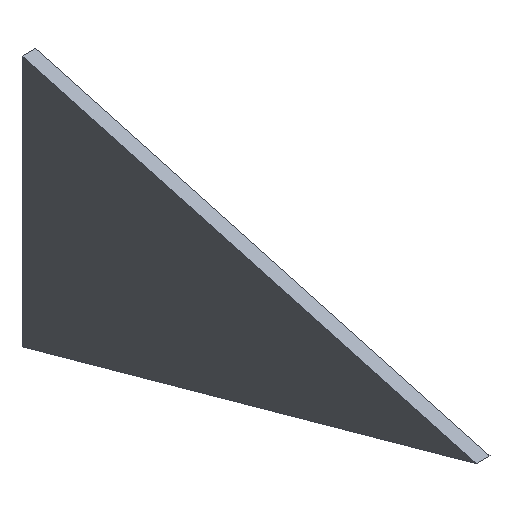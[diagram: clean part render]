
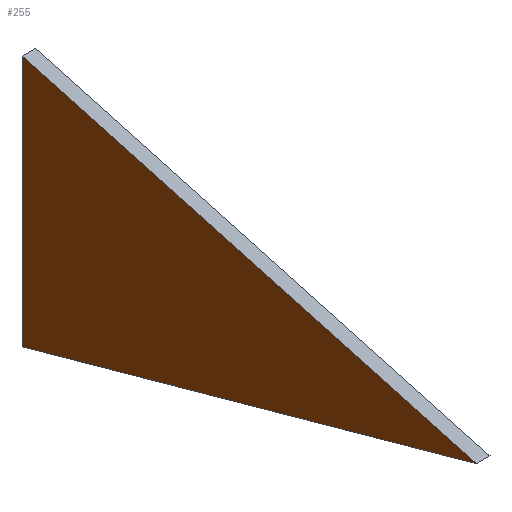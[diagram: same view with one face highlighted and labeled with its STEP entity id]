
A CAD part, isometric view. The second image highlights one B-rep face of the part: STEP entity #255.
In plain terms, the highlighted planar face has unit normal (-1, 0, 0).
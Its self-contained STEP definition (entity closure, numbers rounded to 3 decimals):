
#22 = VERTEX_POINT('',#23);
#23 = CARTESIAN_POINT('',(-1900.,1907.,2980.));
#32 = PLANE('',#33);
#33 = AXIS2_PLACEMENT_3D('',#34,#35,#36);
#34 = CARTESIAN_POINT('',(-1900.,1907.,2980.));
#35 = DIRECTION('',(0.,-1.,0.));
#36 = DIRECTION('',(0.,0.,1.));
#44 = PLANE('',#45);
#45 = AXIS2_PLACEMENT_3D('',#46,#47,#48);
#46 = CARTESIAN_POINT('',(-1900.,1510.,3090.));
#47 = DIRECTION('',(-0.,0.267,0.964));
#48 = DIRECTION('',(0.,0.964,-0.267));
#85 = VERTEX_POINT('',#86);
#86 = CARTESIAN_POINT('',(-1900.,1907.,3200.));
#100 = PLANE('',#101);
#101 = AXIS2_PLACEMENT_3D('',#102,#103,#104);
#102 = CARTESIAN_POINT('',(-1900.,1907.,3200.));
#103 = DIRECTION('',(0.,0.267,-0.964));
#104 = DIRECTION('',(0.,-0.964,-0.267));
#112 = EDGE_CURVE('',#22,#85,#113,.T.);
#113 = SURFACE_CURVE('',#114,(#118,#125),.PCURVE_S1.);
#114 = LINE('',#115,#116);
#115 = CARTESIAN_POINT('',(-1900.,1907.,2980.));
#116 = VECTOR('',#117,1.);
#117 = DIRECTION('',(0.,0.,1.));
#118 = PCURVE('',#32,#119);
#119 = DEFINITIONAL_REPRESENTATION('',(#120),#124);
#120 = LINE('',#121,#122);
#121 = CARTESIAN_POINT('',(0.,0.));
#122 = VECTOR('',#123,1.);
#123 = DIRECTION('',(1.,0.));
#124 = ( GEOMETRIC_REPRESENTATION_CONTEXT(2) 
PARAMETRIC_REPRESENTATION_CONTEXT() REPRESENTATION_CONTEXT('2D SPACE',''
  ) );
#125 = PCURVE('',#126,#131);
#126 = PLANE('',#127);
#127 = AXIS2_PLACEMENT_3D('',#128,#129,#130);
#128 = CARTESIAN_POINT('',(-1900.,1750.333,3090.));
#129 = DIRECTION('',(1.,0.,0.));
#130 = DIRECTION('',(-0.,0.,1.));
#131 = DEFINITIONAL_REPRESENTATION('',(#132),#136);
#132 = LINE('',#133,#134);
#133 = CARTESIAN_POINT('',(-110.,-156.667));
#134 = VECTOR('',#135,1.);
#135 = DIRECTION('',(1.,0.));
#136 = ( GEOMETRIC_REPRESENTATION_CONTEXT(2) 
PARAMETRIC_REPRESENTATION_CONTEXT() REPRESENTATION_CONTEXT('2D SPACE',''
  ) );
#166 = VERTEX_POINT('',#167);
#167 = CARTESIAN_POINT('',(-1900.,1510.,3090.));
#188 = EDGE_CURVE('',#85,#166,#189,.T.);
#189 = SURFACE_CURVE('',#190,(#194,#201),.PCURVE_S1.);
#190 = LINE('',#191,#192);
#191 = CARTESIAN_POINT('',(-1900.,1907.,3200.));
#192 = VECTOR('',#193,1.);
#193 = DIRECTION('',(0.,-0.964,-0.267));
#194 = PCURVE('',#100,#195);
#195 = DEFINITIONAL_REPRESENTATION('',(#196),#200);
#196 = LINE('',#197,#198);
#197 = CARTESIAN_POINT('',(0.,0.));
#198 = VECTOR('',#199,1.);
#199 = DIRECTION('',(1.,0.));
#200 = ( GEOMETRIC_REPRESENTATION_CONTEXT(2) 
PARAMETRIC_REPRESENTATION_CONTEXT() REPRESENTATION_CONTEXT('2D SPACE',''
  ) );
#201 = PCURVE('',#126,#202);
#202 = DEFINITIONAL_REPRESENTATION('',(#203),#207);
#203 = LINE('',#204,#205);
#204 = CARTESIAN_POINT('',(110.,-156.667));
#205 = VECTOR('',#206,1.);
#206 = DIRECTION('',(-0.267,0.964));
#207 = ( GEOMETRIC_REPRESENTATION_CONTEXT(2) 
PARAMETRIC_REPRESENTATION_CONTEXT() REPRESENTATION_CONTEXT('2D SPACE',''
  ) );
#235 = EDGE_CURVE('',#166,#22,#236,.T.);
#236 = SURFACE_CURVE('',#237,(#241,#248),.PCURVE_S1.);
#237 = LINE('',#238,#239);
#238 = CARTESIAN_POINT('',(-1900.,1510.,3090.));
#239 = VECTOR('',#240,1.);
#240 = DIRECTION('',(0.,0.964,-0.267));
#241 = PCURVE('',#44,#242);
#242 = DEFINITIONAL_REPRESENTATION('',(#243),#247);
#243 = LINE('',#244,#245);
#244 = CARTESIAN_POINT('',(0.,0.));
#245 = VECTOR('',#246,1.);
#246 = DIRECTION('',(1.,0.));
#247 = ( GEOMETRIC_REPRESENTATION_CONTEXT(2) 
PARAMETRIC_REPRESENTATION_CONTEXT() REPRESENTATION_CONTEXT('2D SPACE',''
  ) );
#248 = PCURVE('',#126,#249);
#249 = DEFINITIONAL_REPRESENTATION('',(#250),#254);
#250 = LINE('',#251,#252);
#251 = CARTESIAN_POINT('',(0.,240.333));
#252 = VECTOR('',#253,1.);
#253 = DIRECTION('',(-0.267,-0.964));
#254 = ( GEOMETRIC_REPRESENTATION_CONTEXT(2) 
PARAMETRIC_REPRESENTATION_CONTEXT() REPRESENTATION_CONTEXT('2D SPACE',''
  ) );
#255 = ADVANCED_FACE('',(#256),#126,.F.);
#256 = FACE_BOUND('',#257,.F.);
#257 = EDGE_LOOP('',(#258,#259,#260));
#258 = ORIENTED_EDGE('',*,*,#112,.T.);
#259 = ORIENTED_EDGE('',*,*,#188,.T.);
#260 = ORIENTED_EDGE('',*,*,#235,.T.);
